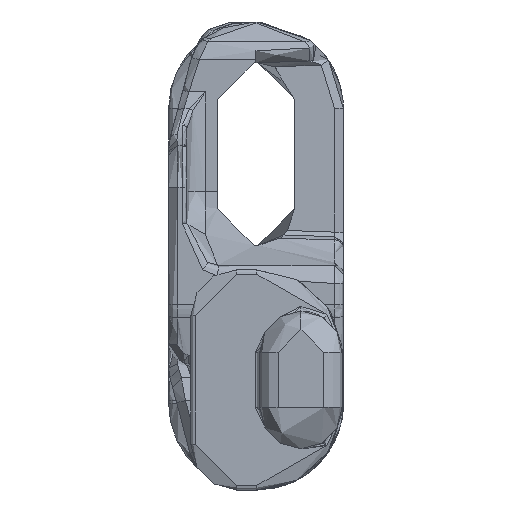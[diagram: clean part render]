
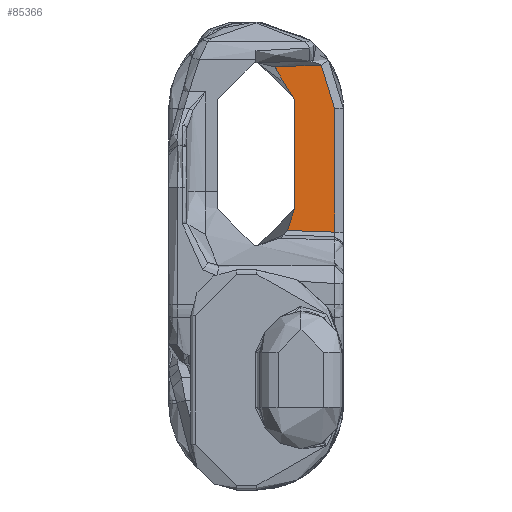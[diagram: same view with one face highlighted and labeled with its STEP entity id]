
A CAD part, left-side view. The second image highlights one B-rep face of the part: STEP entity #85366.
In plain terms, the highlighted planar face has unit normal (-0.999, -0.035, 0).
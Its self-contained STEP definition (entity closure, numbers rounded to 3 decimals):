
#56575 = B_SPLINE_CURVE_WITH_KNOTS ( 'NONE', 3,
 ( #56592, #56589, #56587, #56585, #56582, #56738, #56736, #56734, #56733, #56731, #56729, #56727, #56724, #56722, #56720, #56719, #56717, #56716, #56714, #56712 ),
 .UNSPECIFIED., .F., .F.,
 ( 4, 1, 1, 1, 2, 2, 2, 1, 1, 1, 2, 2, 4 ),
 ( 0., 0.125, 0.187, 0.219, 0.234, 0.25, 0.5, 0.625, 0.687, 0.719, 0.734, 0.75, 1. ),
 .UNSPECIFIED. ) ;
#56582 = CARTESIAN_POINT ( 'NONE',  ( -202.996, 26.795, 41.188 ) ) ;
#56585 = CARTESIAN_POINT ( 'NONE',  ( -203.001, 26.922, 41.295 ) ) ;
#56587 = CARTESIAN_POINT ( 'NONE',  ( -203.01, 27.188, 41.496 ) ) ;
#56589 = CARTESIAN_POINT ( 'NONE',  ( -203.019, 27.434, 41.643 ) ) ;
#56592 = CARTESIAN_POINT ( 'NONE',  ( -203.025, 27.606, 41.73 ) ) ;
#56712 = CARTESIAN_POINT ( 'NONE',  ( -202.948, 25.41, 38.16 ) ) ;
#56714 = CARTESIAN_POINT ( 'NONE',  ( -202.948, 25.41, 38.546 ) ) ;
#56716 = CARTESIAN_POINT ( 'NONE',  ( -202.95, 25.464, 38.923 ) ) ;
#56717 = CARTESIAN_POINT ( 'NONE',  ( -202.954, 25.58, 39.313 ) ) ;
#56719 = CARTESIAN_POINT ( 'NONE',  ( -202.954, 25.586, 39.333 ) ) ;
#56720 = CARTESIAN_POINT ( 'NONE',  ( -202.955, 25.599, 39.375 ) ) ;
#56722 = CARTESIAN_POINT ( 'NONE',  ( -202.955, 25.619, 39.438 ) ) ;
#56724 = CARTESIAN_POINT ( 'NONE',  ( -202.957, 25.67, 39.585 ) ) ;
#56727 = CARTESIAN_POINT ( 'NONE',  ( -202.961, 25.787, 39.871 ) ) ;
#56729 = CARTESIAN_POINT ( 'NONE',  ( -202.966, 25.91, 40.105 ) ) ;
#56731 = CARTESIAN_POINT ( 'NONE',  ( -202.975, 26.189, 40.559 ) ) ;
#56733 = CARTESIAN_POINT ( 'NONE',  ( -202.983, 26.411, 40.83 ) ) ;
#56734 = CARTESIAN_POINT ( 'NONE',  ( -202.993, 26.687, 41.091 ) ) ;
#56736 = CARTESIAN_POINT ( 'NONE',  ( -202.993, 26.706, 41.108 ) ) ;
#56738 = CARTESIAN_POINT ( 'NONE',  ( -202.995, 26.741, 41.14 ) ) ;
#57131 = EDGE_CURVE ( 'NONE', #57504, #57459, #56575, .T. ) ;
#57459 = VERTEX_POINT ( 'NONE', #57856 ) ;
#57504 = VERTEX_POINT ( 'NONE', #58100 ) ;
#57856 = CARTESIAN_POINT ( 'NONE',  ( -202.948, 25.41, 38.16 ) ) ;
#58025 = CARTESIAN_POINT ( 'NONE',  ( -202.948, 25.41, 26.26 ) ) ;
#58100 = CARTESIAN_POINT ( 'NONE',  ( -203.025, 27.606, 41.73 ) ) ;
#58418 = DIRECTION ( 'NONE',  ( 0.035, -0.999, 0.035 ) ) ;
#58419 = VECTOR ( 'NONE', #58418, 1000. ) ;
#58420 = CARTESIAN_POINT ( 'NONE',  ( -203.025, 27.606, 41.73 ) ) ;
#58437 = LINE ( 'NONE', #58420, #58419 ) ;
#58459 = DIRECTION ( 'NONE',  ( 0., 0., -1. ) ) ;
#58461 = VECTOR ( 'NONE', #58459, 1000. ) ;
#58462 = CARTESIAN_POINT ( 'NONE',  ( -202.948, 25.41, 38.16 ) ) ;
#58464 = LINE ( 'NONE', #58462, #58461 ) ;
#72903 = DIRECTION ( 'NONE',  ( -0.035, 0.999, 0. ) ) ;
#72904 = DIRECTION ( 'NONE',  ( 0.999, 0.035, 0. ) ) ;
#72906 = CARTESIAN_POINT ( 'NONE',  ( -203.095, 29.61, 43.52 ) ) ;
#72910 = CARTESIAN_POINT ( 'NONE',  ( -202.796, 21.05, 23.711 ) ) ;
#72911 = LINE ( 'NONE', #72910, #72958 ) ;
#72913 = FACE_OUTER_BOUND ( 'NONE', #85348, .T. ) ;
#72914 = CARTESIAN_POINT ( 'NONE',  ( -202.846, 22.487, 41.909 ) ) ;
#72915 = CARTESIAN_POINT ( 'NONE',  ( -202.796, 21.05, 37.21 ) ) ;
#72918 = CARTESIAN_POINT ( 'NONE',  ( -202.796, 21.05, 37.441 ) ) ;
#72920 = CARTESIAN_POINT ( 'NONE',  ( -202.797, 21.07, 37.916 ) ) ;
#72921 = CARTESIAN_POINT ( 'NONE',  ( -202.8, 21.16, 38.631 ) ) ;
#72922 = CARTESIAN_POINT ( 'NONE',  ( -202.805, 21.316, 39.348 ) ) ;
#72923 = CARTESIAN_POINT ( 'NONE',  ( -202.813, 21.533, 40.048 ) ) ;
#72924 = CARTESIAN_POINT ( 'NONE',  ( -202.822, 21.81, 40.727 ) ) ;
#72925 = CARTESIAN_POINT ( 'NONE',  ( -202.834, 22.13, 41.349 ) ) ;
#72926 = CARTESIAN_POINT ( 'NONE',  ( -202.842, 22.37, 41.735 ) ) ;
#72927 = CARTESIAN_POINT ( 'NONE',  ( -202.846, 22.487, 41.909 ) ) ;
#72934 =( BOUNDED_CURVE ( )  B_SPLINE_CURVE ( 3, ( #72927, #72926, #72925, #72924, #72923, #72922, #72921, #72920, #72918, #72915 ),
 .UNSPECIFIED., .F., .T. ) 
 B_SPLINE_CURVE_WITH_KNOTS ( ( 4, 1, 1, 1, 1, 1, 1, 4 ),
 ( 0., 0.126, 0.273, 0.42, 0.567, 0.714, 0.861, 1. ),
 .UNSPECIFIED. ) 
 CURVE ( )  GEOMETRIC_REPRESENTATION_ITEM ( )  RATIONAL_B_SPLINE_CURVE ( ( 1.165, 1.165, 1.165, 1.165, 1.165, 1.165, 1.165, 1.165, 1.165, 1.165 ) ) 
 REPRESENTATION_ITEM ( '' )  );
#72936 = PLANE ( 'NONE',  #72940 ) ;
#72940 = AXIS2_PLACEMENT_3D ( 'NONE', #72906, #72904, #72903 ) ;
#72957 = DIRECTION ( 'NONE',  ( -0.035, 0.999, 0.035 ) ) ;
#72958 = VECTOR ( 'NONE', #72957, 1000. ) ;
#72961 = CARTESIAN_POINT ( 'NONE',  ( -202.948, 25.41, 26.26 ) ) ;
#72962 = CARTESIAN_POINT ( 'NONE',  ( -202.948, 25.41, 25.852 ) ) ;
#72963 = CARTESIAN_POINT ( 'NONE',  ( -202.95, 25.473, 25.436 ) ) ;
#72964 = CARTESIAN_POINT ( 'NONE',  ( -202.959, 25.732, 24.632 ) ) ;
#72965 = CARTESIAN_POINT ( 'NONE',  ( -202.966, 25.928, 24.243 ) ) ;
#72966 = CARTESIAN_POINT ( 'NONE',  ( -202.975, 26.188, 23.89 ) ) ;
#72972 = B_SPLINE_CURVE_WITH_KNOTS ( 'NONE', 3,
 ( #72966, #72965, #72964, #72963, #72962, #72961 ),
 .UNSPECIFIED., .F., .F.,
 ( 4, 2, 4 ),
 ( 0., 0.5, 1. ),
 .UNSPECIFIED. ) ;
#82977 = EDGE_CURVE ( 'NONE', #82978, #83227, #90859, .T. ) ;
#82978 = VERTEX_POINT ( 'NONE', #90855 ) ;
#83227 = VERTEX_POINT ( 'NONE', #93202 ) ;
#85298 = VERTEX_POINT ( 'NONE', #58025 ) ;
#85346 = ORIENTED_EDGE ( 'NONE', *, *, #85363, .F. ) ;
#85347 = ORIENTED_EDGE ( 'NONE', *, *, #57131, .T. ) ;
#85348 = EDGE_LOOP ( 'NONE', ( #85368, #85346, #85365, #85347, #85370, #85367, #85373 ) ) ;
#85349 = EDGE_CURVE ( 'NONE', #57504, #85364, #58437, .T. ) ;
#85361 = EDGE_CURVE ( 'NONE', #57459, #85298, #58464, .T. ) ;
#85363 = EDGE_CURVE ( 'NONE', #85364, #82978, #72934, .T. ) ;
#85364 = VERTEX_POINT ( 'NONE', #72914 ) ;
#85365 = ORIENTED_EDGE ( 'NONE', *, *, #85349, .F. ) ;
#85366 = ADVANCED_FACE ( 'NONE', ( #72913 ), #72936, .F. ) ;
#85367 = ORIENTED_EDGE ( 'NONE', *, *, #85371, .F. ) ;
#85368 = ORIENTED_EDGE ( 'NONE', *, *, #82977, .F. ) ;
#85370 = ORIENTED_EDGE ( 'NONE', *, *, #85361, .T. ) ;
#85371 = EDGE_CURVE ( 'NONE', #159722, #85298, #72972, .T. ) ;
#85372 = EDGE_CURVE ( 'NONE', #83227, #159722, #72911, .T. ) ;
#85373 = ORIENTED_EDGE ( 'NONE', *, *, #85372, .F. ) ;
#90855 = CARTESIAN_POINT ( 'NONE',  ( -202.796, 21.05, 37.21 ) ) ;
#90859 = LINE ( 'NONE', #90926, #90925 ) ;
#90924 = DIRECTION ( 'NONE',  ( 0., 0., -1. ) ) ;
#90925 = VECTOR ( 'NONE', #90924, 1000. ) ;
#90926 = CARTESIAN_POINT ( 'NONE',  ( -202.796, 21.05, 37.258 ) ) ;
#93202 = CARTESIAN_POINT ( 'NONE',  ( -202.796, 21.05, 23.711 ) ) ;
#159722 = VERTEX_POINT ( 'NONE', #175685 ) ;
#175685 = CARTESIAN_POINT ( 'NONE',  ( -202.975, 26.188, 23.89 ) ) ;
